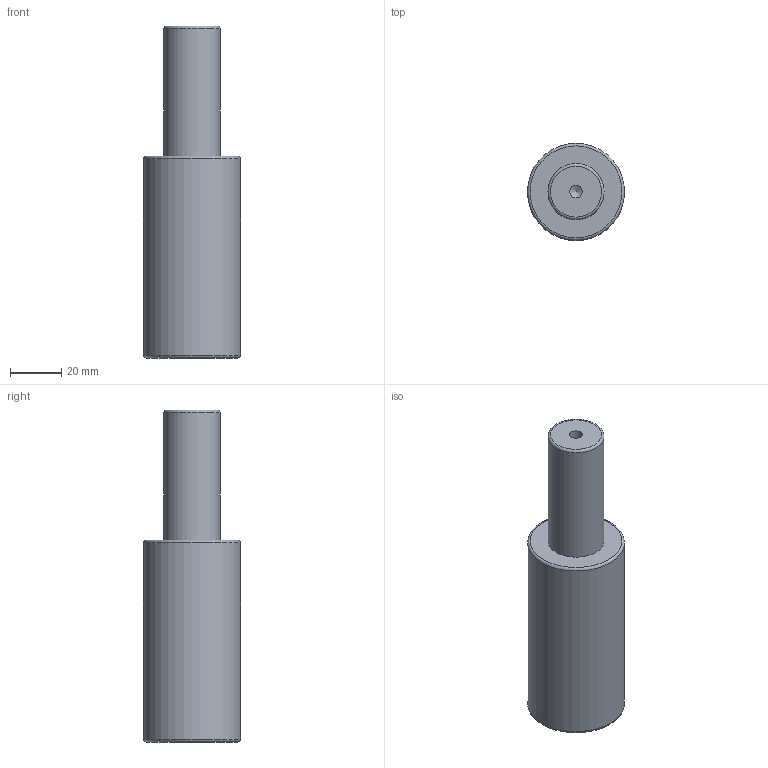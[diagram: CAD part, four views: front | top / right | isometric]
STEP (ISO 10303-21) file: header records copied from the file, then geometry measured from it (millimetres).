
FILE_DESCRIPTION(/* description */ (''),/* implementation_level */ '2;1');
FILE_NAME(/* name */ 'NV5-SMLX.38x50.stp',/* time_stamp */ '2018-08-31T16:08:35+02:00',/* author */ (''),/* organization */ (''),/* preprocessor_version */ 'ST-DEVELOPER v16',/* originating_system */ 'SIEMENS PLM Software NX 10.0',/* authorisation */ '');
FILE_SCHEMA (('AUTOMOTIVE_DESIGN { 1 0 10303 214 3 1 1 1 }'));
Length unit declared in the file: millimetre
Products named in the file (1): NV5-SMLX.38x50
Bounding box: 38 x 38 x 130 mm (x, y, z)
Volume: 108085.1 mm3; surface area: 15614.6 mm2
Topology: 1 solids, 1 shells, 12 faces, 24 edges, 15 vertices
Faces by surface type: cylinder 4, torus 3, plane 3, cone 2
Full cylindrical faces by diameter (mm): 5 x1, 6.8 x1, 22 x1, 38 x1
Entity records: 266 total; most frequent: DIRECTION 48, CARTESIAN_POINT 37, FACE_BOUND 24, AXIS2_PLACEMENT_3D 24, EDGE_LOOP 22, ORIENTED_EDGE 22, VERTEX_POINT 13, ADVANCED_FACE 12
